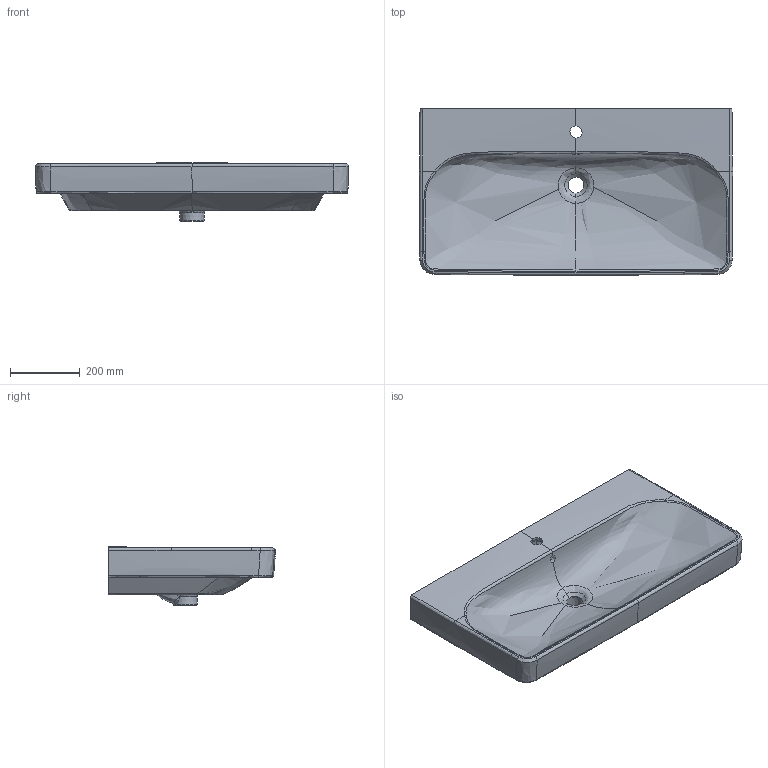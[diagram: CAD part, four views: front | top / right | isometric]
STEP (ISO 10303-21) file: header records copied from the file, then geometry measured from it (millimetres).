
FILE_DESCRIPTION(/* description */ (''),/* implementation_level */ '2;1');
FILE_NAME(/* name */ 'C:\Planerdaten\Export PLA\500.251.01.1\stp\500251.stp',/* time_stamp */ '2020-04-30T09:18:42+02:00',/* author */ ('JANAN'),/* organization */ (''),/* preprocessor_version */ 'ST-DEVELOPER v16.13',/* originating_system */ 'Autodesk Inventor 2018',/* authorisation */ '');
FILE_SCHEMA (('AUTOMOTIVE_DESIGN { 1 0 10303 214 3 1 1 }'));
Products named in the file (1): WT Ge+SmyS B90 m/ÜLF m/HLo
Bounding box: 899.82 x 479.74 x 168 mm (x, y, z)
Volume: 21440732.8 mm3; surface area: 1400397.9 mm2
Topology: 1 solids, 1 shells, 275 faces, 734 edges, 458 vertices
Faces by surface type: bspline 179, cylinder 49, plane 41, sphere 4, torus 1, cone 1
Full cylindrical faces by diameter (mm): 22 x1, 47 x2
Entity records: 83663 total; most frequent: CARTESIAN_POINT 77675, ORIENTED_EDGE 1458, DIRECTION 814, EDGE_CURVE 729, VERTEX_POINT 458, B_SPLINE_CURVE_WITH_KNOTS 327, AXIS2_PLACEMENT_3D 327, EDGE_LOOP 289
